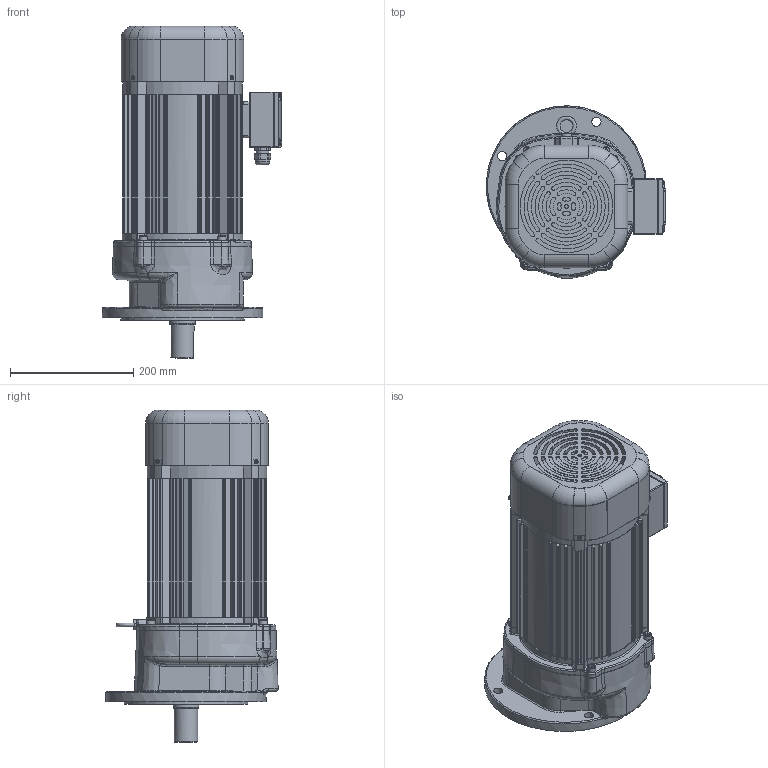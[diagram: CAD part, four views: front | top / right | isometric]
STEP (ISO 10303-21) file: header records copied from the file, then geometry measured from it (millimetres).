
FILE_DESCRIPTION(/* description */ (''),/* implementation_level */ '2;1');
FILE_NAME(/* name */ 'Z:\동력 3D 파일\PMK153_2.2kW_Brake_3D.stp',/* time_stamp */ '2021-12-01T09:02:12+09:00',/* author */ ('jaebok'),/* organization */ (''),/* preprocessor_version */ 'ST-DEVELOPER v18.1',/* originating_system */ 'Autodesk Inventor 2022',/* authorisation */ '');
FILE_SCHEMA (('AUTOMOTIVE_DESIGN { 1 0 10303 214 3 1 1 }'));
Products named in the file (1): 부품5
Bounding box: 291 x 279.52 x 538.6 mm (x, y, z)
Volume: 5452226.1 mm3; surface area: 1214224.8 mm2
Topology: 2 solids, 33 shells, 3317 faces, 8349 edges, 5056 vertices
Faces by surface type: plane 1014, cylinder 871, bspline 834, torus 329, cone 207, sphere 62
Full cylindrical faces by diameter (mm): 2 x1, 3.242 x4, 3.25 x1, 3.6 x4, 4 x21, 5 x13, 6 x5, 6.8 x9, 7 x9, 8 x19, 8.8 x4, 9 x4, 10 x1, 12.5 x1, 13 x4, 15 x5, 16 x1, 20 x2, 20.6 x1, 21 x1, 23.5 x1, 23.6 x1, 25 x1, 28 x2, 35 x1, 36 x1, 38 x1, 39.6 x1, 40.15 x1, 42 x3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
Entity records: 129409 total; most frequent: CARTESIAN_POINT 51423, ORIENTED_EDGE 16416, DIRECTION 14414, EDGE_CURVE 8208, AXIS2_PLACEMENT_3D 5833, VERTEX_POINT 5055, EDGE_LOOP 3537, FACE_OUTER_BOUND 3317
